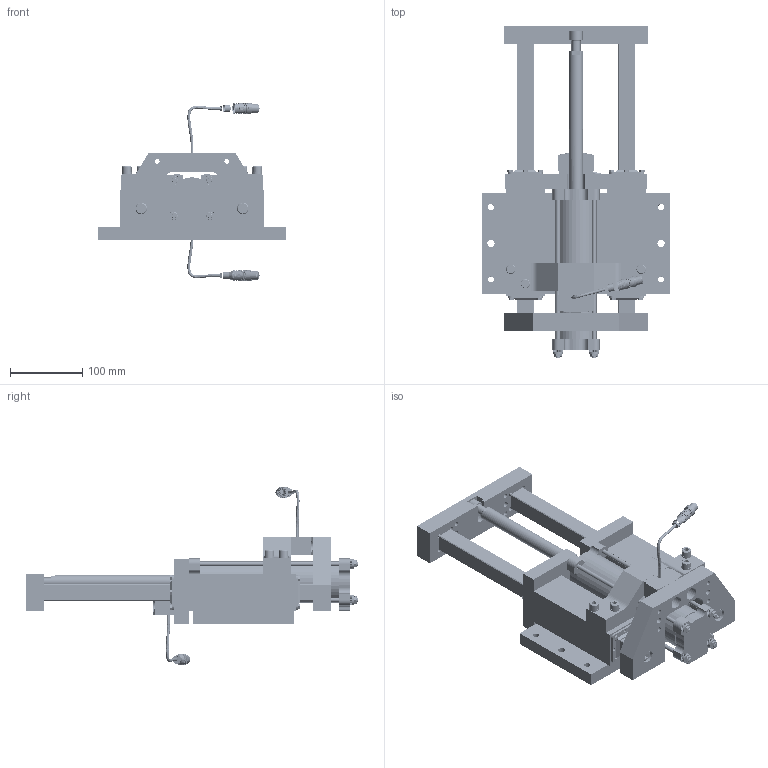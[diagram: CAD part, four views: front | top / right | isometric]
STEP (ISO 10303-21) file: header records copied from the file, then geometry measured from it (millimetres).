
FILE_DESCRIPTION(/* description */ (''),/* implementation_level */ '2;1');
FILE_NAME(/* name */ 'C:\Vault Workspace\CAD\Welker\Shot Pin\DBL24\STANDARD\DB2150B01XP1XXX0000-EXT.stp',/* time_stamp */ '2018-03-26T08:03:07-04:00',/* author */ ('KLabrecque'),/* organization */ (''),/* preprocessor_version */ 'ST-DEVELOPER v17',/* originating_system */ 'Autodesk Inventor 2018',/* authorisation */ '');
FILE_SCHEMA (('AUTOMOTIVE_DESIGN { 1 0 10303 214 3 1 1 }'));
Products named in the file (1): DB2L01_Shrinkwrap_1
Bounding box: 260 x 458.46 x 246.1 mm (x, y, z)
Volume: 3155267.5 mm3; surface area: 754919.8 mm2
Topology: 116 solids, 116 shells, 5431 faces, 14422 edges, 9571 vertices
Faces by surface type: plane 3132, cylinder 1195, bspline 566, cone 515, torus 23
Full cylindrical faces by diameter (mm): 2.5 x1, 3.175 x6, 3.734 x16, 4.064 x2, 4.166 x16, 4.2 x2, 4.763 x32, 4.917 x12, 5.359 x8, 6 x12, 6.35 x2, 6.5 x30, 6.563 x16, 6.63 x2, 6.647 x8, 7.95 x4, 8 x34, 8.13 x2, 8.334 x12, 8.376 x12, 8.5 x16, 8.7 x16, 9.728 x3, 10 x18, 10.211 x2, 10.287 x2, 10.35 x18, 10.494 x2, 10.5 x10, 10.7 x4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
Entity records: 197057 total; most frequent: CARTESIAN_POINT 61862, ORIENTED_EDGE 28728, DIRECTION 24168, EDGE_CURVE 14364, VERTEX_POINT 9571, AXIS2_PLACEMENT_3D 8688, LINE 6792, VECTOR 6792
